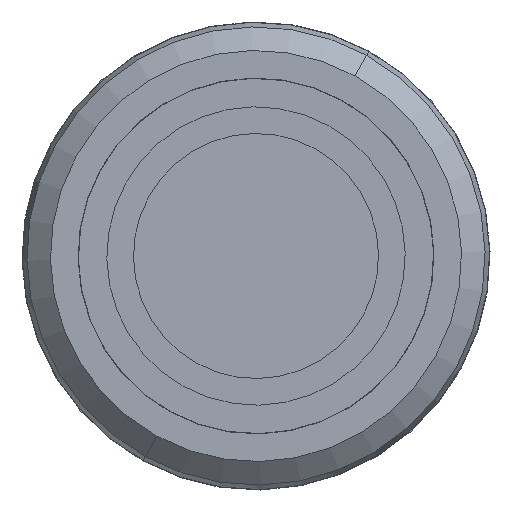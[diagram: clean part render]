
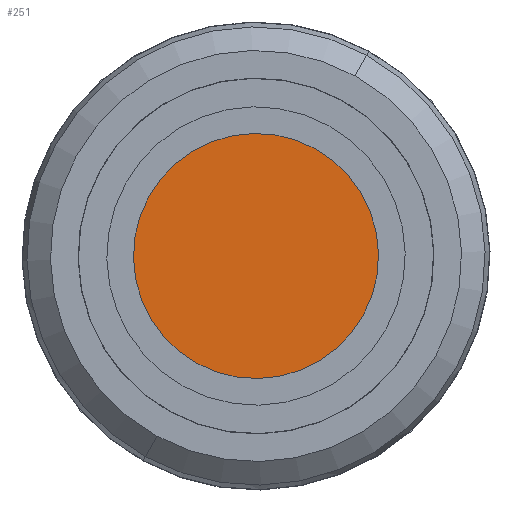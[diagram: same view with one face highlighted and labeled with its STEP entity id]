
A CAD part, left-side view. The second image highlights one B-rep face of the part: STEP entity #251.
In plain terms, the highlighted planar face has unit normal (-1, 0, 0).
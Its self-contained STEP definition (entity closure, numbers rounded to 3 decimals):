
#251=ADVANCED_FACE('',(#512),#513,.T.);
#512=FACE_OUTER_BOUND('',#892,.T.);
#513=PLANE('',#893);
#892=EDGE_LOOP('',(#1568,#1569,#1570));
#893=AXIS2_PLACEMENT_3D('',#1571,#1572,#1573);
#1568=ORIENTED_EDGE('',*,*,#1847,.T.);
#1569=ORIENTED_EDGE('',*,*,#1579,.T.);
#1570=ORIENTED_EDGE('',*,*,#1848,.T.);
#1571=CARTESIAN_POINT('',(-26.4,0.,0.));
#1572=DIRECTION('',(-1.0,0.,0.));
#1573=DIRECTION('',(0.,0.0,1.0));
#1579=EDGE_CURVE('',#1853,#1857,#1859,.T.);
#1847=EDGE_CURVE('',#2263,#1853,#2264,.T.);
#1848=EDGE_CURVE('',#1857,#2263,#2265,.T.);
#1853=VERTEX_POINT('',#2270);
#1857=VERTEX_POINT('',#2275);
#1859=CIRCLE('',#2278,17.25);
#2263=VERTEX_POINT('',#2740);
#2264=CIRCLE('',#2741,17.25);
#2265=CIRCLE('',#2742,17.25);
#2270=CARTESIAN_POINT('',(-26.4,-8.319,15.111));
#2275=CARTESIAN_POINT('',(-26.4,8.319,-15.111));
#2278=AXIS2_PLACEMENT_3D('',#2750,#2751,#2752);
#2740=CARTESIAN_POINT('',(-26.4,-15.111,-8.319));
#2741=AXIS2_PLACEMENT_3D('',#3219,#3220,#3221);
#2742=AXIS2_PLACEMENT_3D('',#3222,#3223,#3224);
#2750=CARTESIAN_POINT('',(-26.4,0.,0.));
#2751=DIRECTION('',(-1.0,0.,0.));
#2752=DIRECTION('',(0.0,0.876,0.482));
#3219=CARTESIAN_POINT('',(-26.4,0.,0.));
#3220=DIRECTION('',(-1.0,0.,0.));
#3221=DIRECTION('',(0.0,0.876,0.482));
#3222=CARTESIAN_POINT('',(-26.4,0.,0.));
#3223=DIRECTION('',(-1.0,0.,0.));
#3224=DIRECTION('',(0.0,0.876,0.482));
